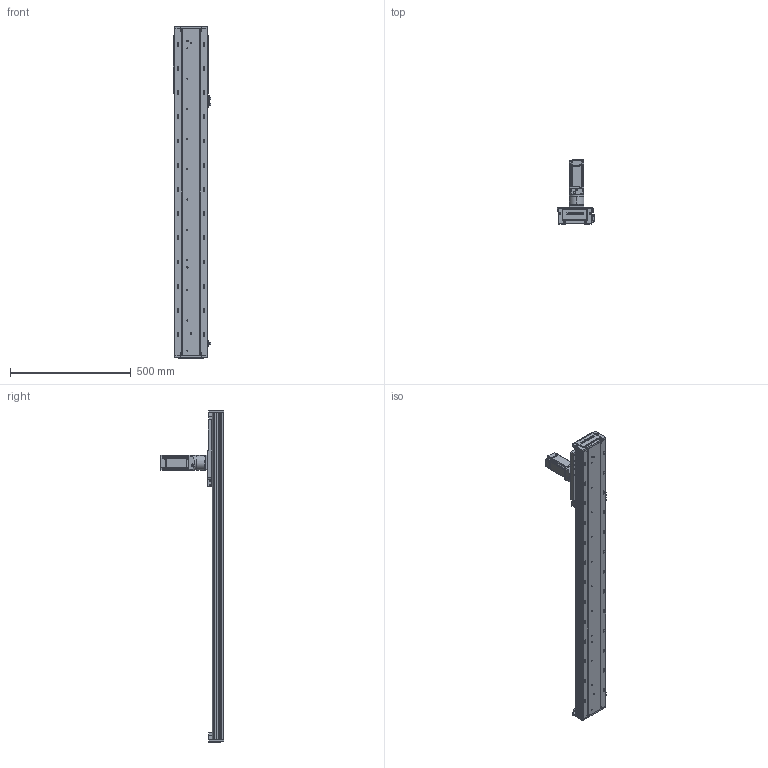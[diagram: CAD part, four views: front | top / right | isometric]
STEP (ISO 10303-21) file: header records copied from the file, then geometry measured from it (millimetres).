
FILE_DESCRIPTION (( 'STEP AP203' ), '1' );
FILE_NAME ('RY140-C-250-UK.SLDASM_1000.step', '2022-03-12T01:58:47', ( '' ), ( '' ), 'SwSTEP 2.0', 'SolidWorks 2016', '' );
FILE_SCHEMA (( 'CONFIG_CONTROL_DESIGN' ));
Length unit declared in the file: millimetre
Products named in the file (12): 15; RY140-喘沭裔啣; 覜茼ん672; RY140-喘沭賑輸; 140蚥薯蝶輸; RY120外置感应片(140共用）; RY140-絳寢EGH15-300-MK_1000; RY140-C-250-UK.SLDASM_1000; 60ZDF珨撰俋倛芞T1 200W M4; 絳寢賑輸EGH15; RY140-喘謫萇儂覃誹啣; RY140-300齿条模组型材底座_1000
Assembly tree (21 placements, depth 2):
  RY140-C-250-UK.SLDASM_1000
    RY140-300齿条模组型材底座_1000
    RY140-絳寢EGH15-300-MK_1000  x2
    絳寢賑輸EGH15  x6
    RY140-喘沭裔啣  x2
    覜茼ん672  x3
    RY140-喘沭賑輸
    RY120外置感应片(140共用）
    RY140-喘謫萇儂覃誹啣
    140蚥薯蝶輸  x2
    60ZDF珨撰俋倛芞T1 200W M4
    15
Bounding box: 153.7 x 263.5 x 1372 mm (x, y, z)
Volume: 5052995.5 mm3; surface area: 1319136 mm2
Topology: 21 solids, 21 shells, 3404 faces, 9028 edges, 5842 vertices
Faces by surface type: plane 1646, cylinder 1476, cone 236, bspline 46
Entity records: 75757 total; most frequent: CARTESIAN_POINT 16401, DIRECTION 12093, ORIENTED_EDGE 12014, EDGE_CURVE 6007, AXIS2_PLACEMENT_3D 4303, VERTEX_POINT 3931, VECTOR 3487, LINE 3487
